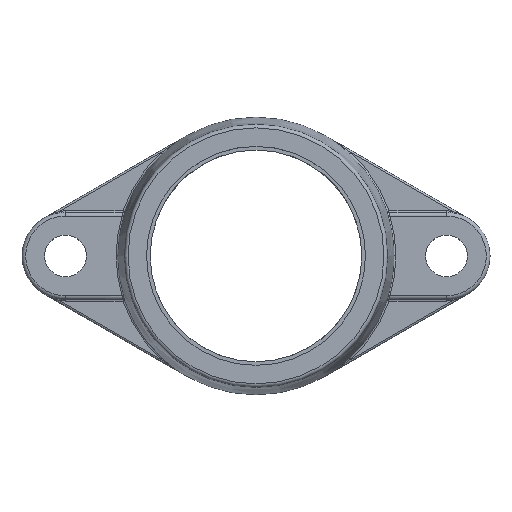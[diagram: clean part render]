
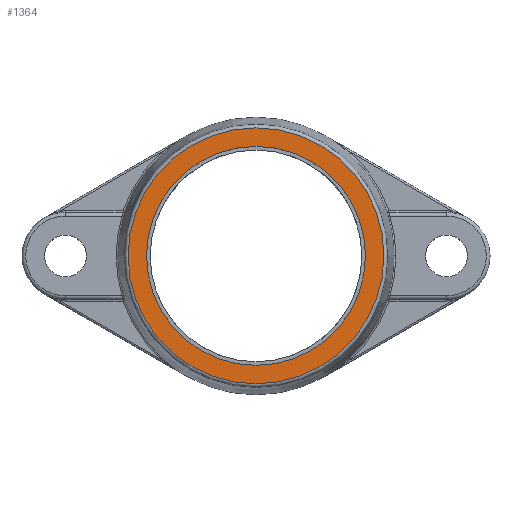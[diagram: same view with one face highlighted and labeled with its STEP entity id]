
A CAD part, top view. The second image highlights one B-rep face of the part: STEP entity #1364.
In plain terms, the highlighted planar face has unit normal (0, 0, 1).
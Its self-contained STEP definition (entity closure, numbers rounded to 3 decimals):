
#17=FACE_BOUND('',#355,.T.);
#30=PLANE('',#1524);
#264=FACE_OUTER_BOUND('',#354,.T.);
#354=EDGE_LOOP('',(#1129));
#355=EDGE_LOOP('',(#1130));
#504=CIRCLE('',#1523,70.545);
#505=CIRCLE('',#1525,60.344);
#623=VERTEX_POINT('',#3251);
#624=VERTEX_POINT('',#3255);
#806=EDGE_CURVE('',#623,#623,#504,.T.);
#807=EDGE_CURVE('',#624,#624,#505,.T.);
#1129=ORIENTED_EDGE('',*,*,#806,.F.);
#1130=ORIENTED_EDGE('',*,*,#807,.T.);
#1364=ADVANCED_FACE('',(#264,#17),#30,.T.);
#1523=AXIS2_PLACEMENT_3D('',#3253,#1833,#1834);
#1524=AXIS2_PLACEMENT_3D('',#3254,#1835,#1836);
#1525=AXIS2_PLACEMENT_3D('',#3256,#1837,#1838);
#1833=DIRECTION('center_axis',(0.,0.,-1.));
#1834=DIRECTION('ref_axis',(1.,0.,0.));
#1835=DIRECTION('center_axis',(0.,0.,1.));
#1836=DIRECTION('ref_axis',(1.,0.,0.));
#1837=DIRECTION('center_axis',(0.,0.,-1.));
#1838=DIRECTION('ref_axis',(1.,0.,0.));
#3251=CARTESIAN_POINT('',(70.545,0.,50.));
#3253=CARTESIAN_POINT('Origin',(0.,0.,50.));
#3254=CARTESIAN_POINT('Origin',(-72.284,0.,50.));
#3255=CARTESIAN_POINT('',(60.344,0.,50.));
#3256=CARTESIAN_POINT('Origin',(0.,0.,50.));
